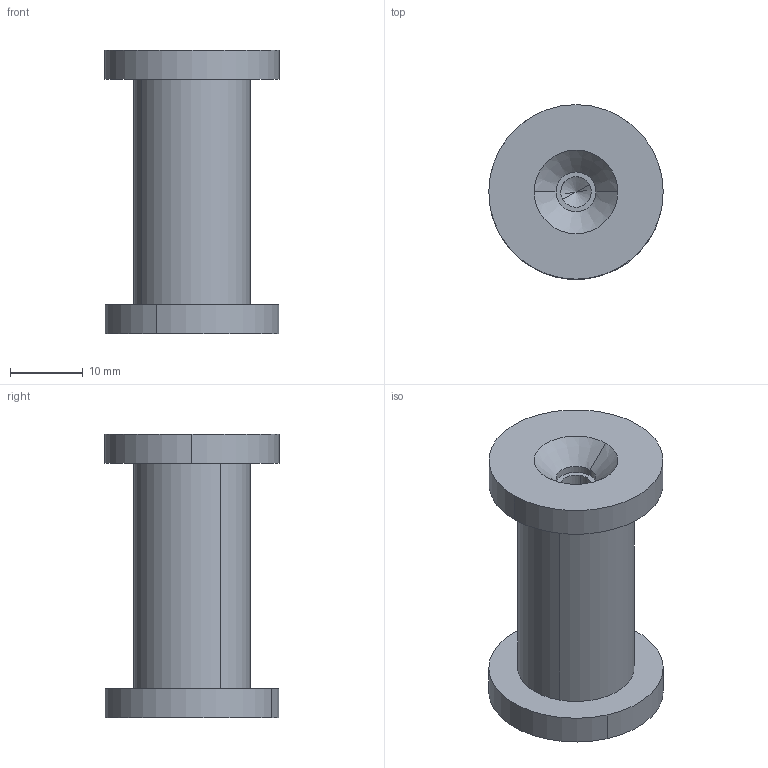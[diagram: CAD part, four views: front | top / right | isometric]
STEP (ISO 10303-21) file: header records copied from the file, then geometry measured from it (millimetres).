
FILE_DESCRIPTION (( 'STEP AP203' ), '1' );
FILE_NAME ('Bolzen Scheibe A M1^6.STEP', '2018-02-20T07:42:58', ( 'install' ), ( 'Hewlett-Packard Company' ), 'SwSTEP 2.0', 'SolidWorks 2017', '' );
FILE_SCHEMA (( 'CONFIG_CONTROL_DESIGN' ));
Length unit declared in the file: millimetre
Products named in the file (3): Scheibe_M16; Bolzen ScheibeVarA_generisch_M16; Bolzen Scheibe A M1^6
Assembly tree (3 placements, depth 2):
  Bolzen Scheibe A M1^6
    Scheibe_M16  x2
    Bolzen ScheibeVarA_generisch_M16
Bounding box: 24 x 24 x 39 mm (x, y, z)
Volume: 9127.9 mm3; surface area: 4679.2 mm2
Topology: 3 solids, 3 shells, 28 faces, 58 edges, 34 vertices
Faces by surface type: cylinder 14, cone 8, plane 6
Entity records: 853 total; most frequent: DIRECTION 112, CARTESIAN_POINT 88, ORIENTED_EDGE 76, AXIS2_PLACEMENT_3D 48, EDGE_CURVE 38, PERSON_AND_ORGANIZATION 27, EDGE_LOOP 24, VERTEX_POINT 24
